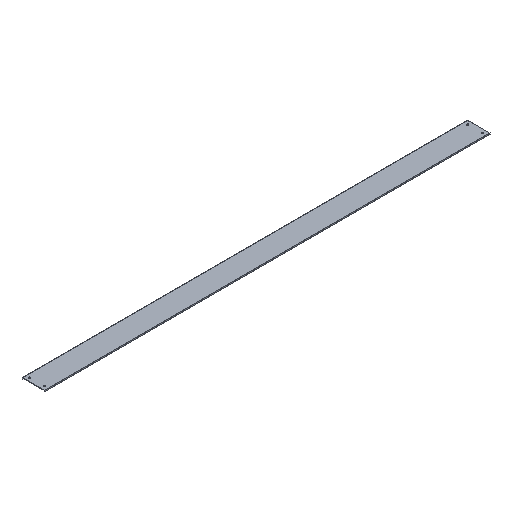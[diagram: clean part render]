
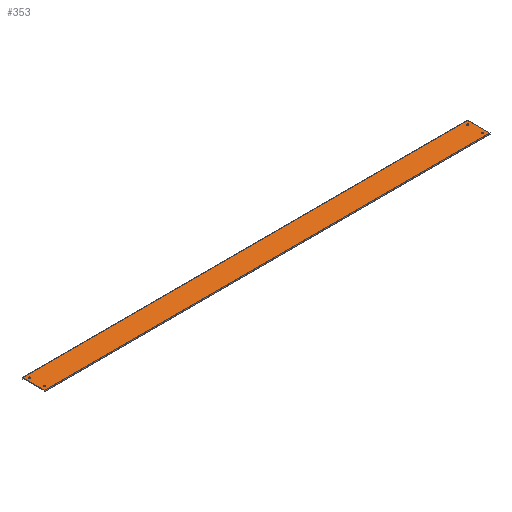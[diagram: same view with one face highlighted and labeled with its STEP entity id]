
A CAD part, isometric view. The second image highlights one B-rep face of the part: STEP entity #353.
In plain terms, the highlighted planar face has unit normal (0, 0, 1).
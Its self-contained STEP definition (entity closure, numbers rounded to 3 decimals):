
#30=FACE_BOUND('',#82,.T.);
#31=FACE_BOUND('',#83,.T.);
#32=FACE_BOUND('',#84,.T.);
#33=FACE_BOUND('',#85,.T.);
#42=CIRCLE('',#383,5.);
#43=CIRCLE('',#384,5.);
#44=CIRCLE('',#385,5.);
#45=CIRCLE('',#386,5.);
#46=CIRCLE('',#387,5.);
#47=CIRCLE('',#388,5.);
#48=CIRCLE('',#389,5.);
#49=CIRCLE('',#390,5.);
#59=FACE_OUTER_BOUND('',#81,.T.);
#81=EDGE_LOOP('',(#290,#291,#292,#293));
#82=EDGE_LOOP('',(#294,#295));
#83=EDGE_LOOP('',(#296,#297));
#84=EDGE_LOOP('',(#298,#299));
#85=EDGE_LOOP('',(#300,#301));
#101=LINE('',#524,#133);
#103=LINE('',#530,#135);
#110=LINE('',#543,#142);
#117=LINE('',#572,#149);
#133=VECTOR('',#413,304.8);
#135=VECTOR('',#417,304.8);
#142=VECTOR('',#426,304.8);
#149=VECTOR('',#461,304.8);
#158=VERTEX_POINT('',#509);
#165=VERTEX_POINT('',#522);
#167=VERTEX_POINT('',#527);
#168=VERTEX_POINT('',#529);
#182=VERTEX_POINT('',#574);
#183=VERTEX_POINT('',#575);
#184=VERTEX_POINT('',#578);
#185=VERTEX_POINT('',#579);
#186=VERTEX_POINT('',#582);
#187=VERTEX_POINT('',#583);
#188=VERTEX_POINT('',#586);
#189=VERTEX_POINT('',#587);
#197=EDGE_CURVE('',#165,#158,#101,.T.);
#199=EDGE_CURVE('',#167,#168,#103,.T.);
#206=EDGE_CURVE('',#158,#167,#110,.T.);
#221=EDGE_CURVE('',#168,#165,#117,.T.);
#222=EDGE_CURVE('',#182,#183,#42,.T.);
#223=EDGE_CURVE('',#183,#182,#43,.T.);
#224=EDGE_CURVE('',#184,#185,#44,.T.);
#225=EDGE_CURVE('',#185,#184,#45,.T.);
#226=EDGE_CURVE('',#186,#187,#46,.T.);
#227=EDGE_CURVE('',#187,#186,#47,.T.);
#228=EDGE_CURVE('',#188,#189,#48,.T.);
#229=EDGE_CURVE('',#189,#188,#49,.T.);
#290=ORIENTED_EDGE('',*,*,#197,.F.);
#291=ORIENTED_EDGE('',*,*,#221,.F.);
#292=ORIENTED_EDGE('',*,*,#199,.F.);
#293=ORIENTED_EDGE('',*,*,#206,.F.);
#294=ORIENTED_EDGE('',*,*,#222,.T.);
#295=ORIENTED_EDGE('',*,*,#223,.T.);
#296=ORIENTED_EDGE('',*,*,#224,.T.);
#297=ORIENTED_EDGE('',*,*,#225,.T.);
#298=ORIENTED_EDGE('',*,*,#226,.T.);
#299=ORIENTED_EDGE('',*,*,#227,.T.);
#300=ORIENTED_EDGE('',*,*,#228,.T.);
#301=ORIENTED_EDGE('',*,*,#229,.T.);
#343=PLANE('',#382);
#353=ADVANCED_FACE('',(#59,#30,#31,#32,#33),#343,.T.);
#382=AXIS2_PLACEMENT_3D('',#573,#462,#463);
#383=AXIS2_PLACEMENT_3D('',#576,#464,#465);
#384=AXIS2_PLACEMENT_3D('',#577,#466,#467);
#385=AXIS2_PLACEMENT_3D('',#580,#468,#469);
#386=AXIS2_PLACEMENT_3D('',#581,#470,#471);
#387=AXIS2_PLACEMENT_3D('',#584,#472,#473);
#388=AXIS2_PLACEMENT_3D('',#585,#474,#475);
#389=AXIS2_PLACEMENT_3D('',#588,#476,#477);
#390=AXIS2_PLACEMENT_3D('',#589,#478,#479);
#413=DIRECTION('',(0.,-1.,0.));
#417=DIRECTION('',(0.,1.,0.));
#426=DIRECTION('',(-1.,0.,0.));
#461=DIRECTION('',(1.,0.,0.));
#462=DIRECTION('center_axis',(0.,0.,1.));
#463=DIRECTION('ref_axis',(-1.,0.,0.));
#464=DIRECTION('center_axis',(0.,0.,-1.));
#465=DIRECTION('ref_axis',(1.,0.,0.));
#466=DIRECTION('center_axis',(0.,0.,-1.));
#467=DIRECTION('ref_axis',(1.,0.,0.));
#468=DIRECTION('center_axis',(0.,0.,-1.));
#469=DIRECTION('ref_axis',(1.,0.,0.));
#470=DIRECTION('center_axis',(0.,0.,-1.));
#471=DIRECTION('ref_axis',(1.,0.,0.));
#472=DIRECTION('center_axis',(0.,0.,-1.));
#473=DIRECTION('ref_axis',(1.,0.,0.));
#474=DIRECTION('center_axis',(0.,0.,-1.));
#475=DIRECTION('ref_axis',(1.,0.,0.));
#476=DIRECTION('center_axis',(0.,0.,-1.));
#477=DIRECTION('ref_axis',(1.,0.,0.));
#478=DIRECTION('center_axis',(0.,0.,-1.));
#479=DIRECTION('ref_axis',(1.,0.,0.));
#509=CARTESIAN_POINT('',(3000.,-75.,1.5));
#522=CARTESIAN_POINT('',(3000.,75.,1.5));
#524=CARTESIAN_POINT('',(3000.,75.,1.5));
#527=CARTESIAN_POINT('',(0.,-75.,1.5));
#529=CARTESIAN_POINT('',(0.,75.,1.5));
#530=CARTESIAN_POINT('',(0.,-75.,1.5));
#543=CARTESIAN_POINT('',(3000.,-75.,1.5));
#572=CARTESIAN_POINT('',(3000.,75.,1.5));
#573=CARTESIAN_POINT('Origin',(3000.,75.,1.5));
#574=CARTESIAN_POINT('',(30.,48.5,1.5));
#575=CARTESIAN_POINT('',(20.,48.5,1.5));
#576=CARTESIAN_POINT('Origin',(25.,48.5,1.5));
#577=CARTESIAN_POINT('Origin',(25.,48.5,1.5));
#578=CARTESIAN_POINT('',(30.,-48.5,1.5));
#579=CARTESIAN_POINT('',(20.,-48.5,1.5));
#580=CARTESIAN_POINT('Origin',(25.,-48.5,1.5));
#581=CARTESIAN_POINT('Origin',(25.,-48.5,1.5));
#582=CARTESIAN_POINT('',(2980.,48.5,1.5));
#583=CARTESIAN_POINT('',(2970.,48.5,1.5));
#584=CARTESIAN_POINT('Origin',(2975.,48.5,1.5));
#585=CARTESIAN_POINT('Origin',(2975.,48.5,1.5));
#586=CARTESIAN_POINT('',(2980.,-48.5,1.5));
#587=CARTESIAN_POINT('',(2970.,-48.5,1.5));
#588=CARTESIAN_POINT('Origin',(2975.,-48.5,1.5));
#589=CARTESIAN_POINT('Origin',(2975.,-48.5,1.5));
